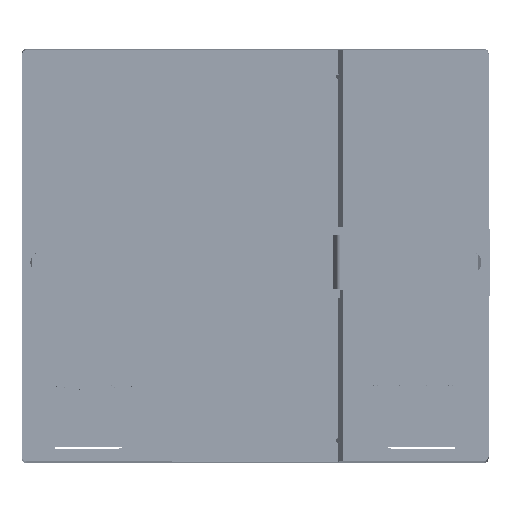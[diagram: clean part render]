
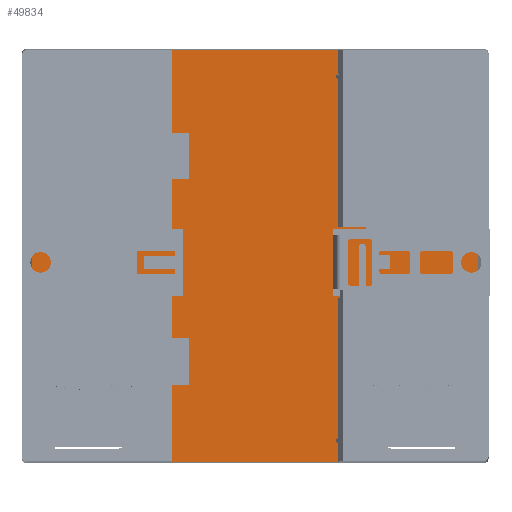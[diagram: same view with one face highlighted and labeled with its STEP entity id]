
A CAD part, top view. The second image highlights one B-rep face of the part: STEP entity #49834.
In plain terms, the highlighted planar face has unit normal (0, 0, 1).
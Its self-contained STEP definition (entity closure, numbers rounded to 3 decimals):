
#29487=CIRCLE('',#404003,0.5);
#29488=CIRCLE('',#404004,0.5);
#49834=ADVANCED_FACE('',(#81951),#62026,.F.);
#62026=PLANE('',#404005);
#81951=FACE_OUTER_BOUND('',#103732,.T.);
#103732=EDGE_LOOP('',(#203236,#203237,#203238,#203239,#203240,#203241,#203242,
#203243,#203244,#203245,#203246,#203247,#203248,#203249,#203250,#203251));
#203236=ORIENTED_EDGE('',*,*,#294840,.T.);
#203237=ORIENTED_EDGE('',*,*,#294830,.F.);
#203238=ORIENTED_EDGE('',*,*,#294828,.F.);
#203239=ORIENTED_EDGE('',*,*,#294842,.T.);
#203240=ORIENTED_EDGE('',*,*,#294824,.F.);
#203241=ORIENTED_EDGE('',*,*,#294822,.F.);
#203242=ORIENTED_EDGE('',*,*,#294843,.T.);
#203243=ORIENTED_EDGE('',*,*,#294844,.F.);
#203244=ORIENTED_EDGE('',*,*,#294845,.T.);
#203245=ORIENTED_EDGE('',*,*,#294846,.T.);
#203246=ORIENTED_EDGE('',*,*,#294847,.T.);
#203247=ORIENTED_EDGE('',*,*,#294674,.T.);
#203248=ORIENTED_EDGE('',*,*,#294694,.T.);
#203249=ORIENTED_EDGE('',*,*,#294848,.T.);
#203250=ORIENTED_EDGE('',*,*,#294690,.T.);
#203251=ORIENTED_EDGE('',*,*,#294849,.T.);
#242935=VERTEX_POINT('',#628585);
#242936=VERTEX_POINT('',#628586);
#242948=VERTEX_POINT('',#628614);
#242949=VERTEX_POINT('',#628616);
#242952=VERTEX_POINT('',#628622);
#243026=VERTEX_POINT('',#628870);
#243027=VERTEX_POINT('',#628872);
#243028=VERTEX_POINT('',#628876);
#243031=VERTEX_POINT('',#628882);
#243032=VERTEX_POINT('',#628884);
#243033=VERTEX_POINT('',#628888);
#243038=VERTEX_POINT('',#628908);
#243039=VERTEX_POINT('',#628913);
#243040=VERTEX_POINT('',#628915);
#243041=VERTEX_POINT('',#628917);
#243042=VERTEX_POINT('',#628919);
#294674=EDGE_CURVE('',#242935,#242936,#332183,.T.);
#294690=EDGE_CURVE('',#242949,#242948,#332199,.T.);
#294694=EDGE_CURVE('',#242936,#242952,#332201,.T.);
#294822=EDGE_CURVE('',#243026,#243027,#332311,.T.);
#294824=EDGE_CURVE('',#243027,#243028,#332313,.T.);
#294828=EDGE_CURVE('',#243031,#243032,#332315,.T.);
#294830=EDGE_CURVE('',#243032,#243033,#332317,.T.);
#294840=EDGE_CURVE('',#243038,#243033,#332327,.T.);
#294842=EDGE_CURVE('',#243031,#243028,#29487,.T.);
#294843=EDGE_CURVE('',#243026,#243039,#332329,.T.);
#294844=EDGE_CURVE('',#243040,#243039,#332330,.T.);
#294845=EDGE_CURVE('',#243040,#243041,#332331,.T.);
#294846=EDGE_CURVE('',#243041,#243042,#332332,.T.);
#294847=EDGE_CURVE('',#243042,#242935,#332333,.T.);
#294848=EDGE_CURVE('',#242952,#242949,#29488,.T.);
#294849=EDGE_CURVE('',#242948,#243038,#332334,.T.);
#332183=LINE('',#628584,#369922);
#332199=LINE('',#628615,#369938);
#332201=LINE('',#628623,#369940);
#332311=LINE('',#628871,#370050);
#332313=LINE('',#628875,#370052);
#332315=LINE('',#628883,#370054);
#332317=LINE('',#628887,#370056);
#332327=LINE('',#628907,#370066);
#332329=LINE('',#628912,#370068);
#332330=LINE('',#628914,#370069);
#332331=LINE('',#628916,#370070);
#332332=LINE('',#628918,#370071);
#332333=LINE('',#628920,#370072);
#332334=LINE('',#628922,#370073);
#369922=VECTOR('',#501728,1.);
#369938=VECTOR('',#501746,1.);
#369940=VECTOR('',#501752,1.);
#370050=VECTOR('',#501990,1.);
#370052=VECTOR('',#501994,1.);
#370054=VECTOR('',#502000,1.);
#370056=VECTOR('',#502004,1.);
#370066=VECTOR('',#502024,1.);
#370068=VECTOR('',#502030,1.);
#370069=VECTOR('',#502031,1.);
#370070=VECTOR('',#502032,1.);
#370071=VECTOR('',#502033,1.);
#370072=VECTOR('',#502034,1.);
#370073=VECTOR('',#502037,1.);
#404003=AXIS2_PLACEMENT_3D('',#628911,#502028,#502029);
#404004=AXIS2_PLACEMENT_3D('',#628921,#502035,#502036);
#404005=AXIS2_PLACEMENT_3D('',#628923,#502038,#502039);
#501728=DIRECTION('',(1.,0.,0.));
#501746=DIRECTION('',(0.,1.,0.));
#501752=DIRECTION('',(0.,1.,0.));
#501990=DIRECTION('',(1.,0.,0.));
#501994=DIRECTION('',(0.,-1.,0.));
#502000=DIRECTION('',(0.,-1.,0.));
#502004=DIRECTION('',(1.,0.,0.));
#502024=DIRECTION('',(0.,1.,0.));
#502028=DIRECTION('',(0.,0.,-1.));
#502029=DIRECTION('',(0.,-1.,0.));
#502030=DIRECTION('',(0.,-1.,0.));
#502031=DIRECTION('',(1.,0.,0.));
#502032=DIRECTION('',(0.,-1.,0.));
#502033=DIRECTION('',(1.,0.,0.));
#502034=DIRECTION('',(0.,-1.,0.));
#502035=DIRECTION('',(0.,0.,-1.));
#502036=DIRECTION('',(0.,-1.,0.));
#502037=DIRECTION('',(1.,0.,0.));
#502038=DIRECTION('',(0.,0.,-1.));
#502039=DIRECTION('',(1.,0.,0.));
#628584=CARTESIAN_POINT('',(-17.8,-43.48,-5.));
#628585=CARTESIAN_POINT('',(-17.8,-43.48,-5.));
#628586=CARTESIAN_POINT('',(17.8,-43.48,-5.));
#628614=CARTESIAN_POINT('',(17.8,-8.35,-5.));
#628615=CARTESIAN_POINT('',(17.8,-38.5,-5.));
#628616=CARTESIAN_POINT('',(17.8,-38.5,-5.));
#628622=CARTESIAN_POINT('',(17.8,-39.5,-5.));
#628623=CARTESIAN_POINT('',(17.8,-43.48,-5.));
#628870=CARTESIAN_POINT('',(-17.8,44.775,-5.));
#628871=CARTESIAN_POINT('',(-17.8,44.775,-5.));
#628872=CARTESIAN_POINT('',(17.8,44.775,-5.));
#628875=CARTESIAN_POINT('',(17.8,44.775,-5.));
#628876=CARTESIAN_POINT('',(17.8,39.5,-5.));
#628882=CARTESIAN_POINT('',(17.8,38.5,-5.));
#628883=CARTESIAN_POINT('',(17.8,38.5,-5.));
#628884=CARTESIAN_POINT('',(17.8,6.75,-5.));
#628887=CARTESIAN_POINT('',(17.8,6.75,-5.));
#628888=CARTESIAN_POINT('',(47.8,6.75,-5.));
#628907=CARTESIAN_POINT('',(47.8,42.4,-5.));
#628908=CARTESIAN_POINT('',(47.8,-8.35,-5.));
#628911=CARTESIAN_POINT('',(17.8,39.,-5.));
#628912=CARTESIAN_POINT('',(-17.8,44.775,-5.));
#628913=CARTESIAN_POINT('',(-17.8,6.75,-5.));
#628914=CARTESIAN_POINT('',(-47.8,6.75,-5.));
#628915=CARTESIAN_POINT('',(-47.8,6.75,-5.));
#628916=CARTESIAN_POINT('',(-47.8,6.75,-5.));
#628917=CARTESIAN_POINT('',(-47.8,-8.35,-5.));
#628918=CARTESIAN_POINT('',(-47.8,-8.35,-5.));
#628919=CARTESIAN_POINT('',(-17.8,-8.35,-5.));
#628920=CARTESIAN_POINT('',(-17.8,-28.,-5.));
#628921=CARTESIAN_POINT('',(17.8,-39.,-5.));
#628922=CARTESIAN_POINT('',(17.8,-8.35,-5.));
#628923=CARTESIAN_POINT('',(0.,42.4,-5.));
